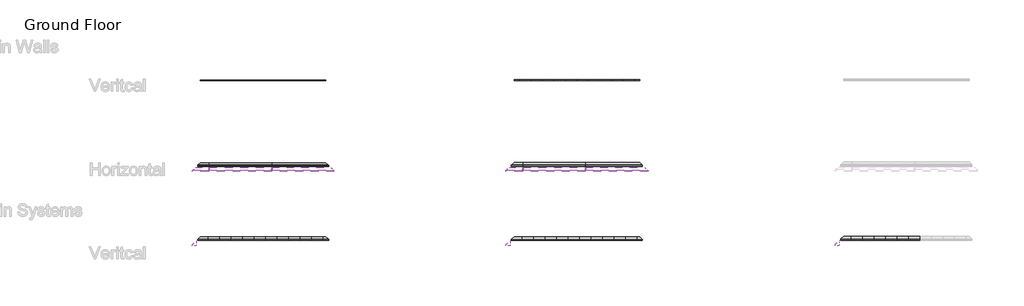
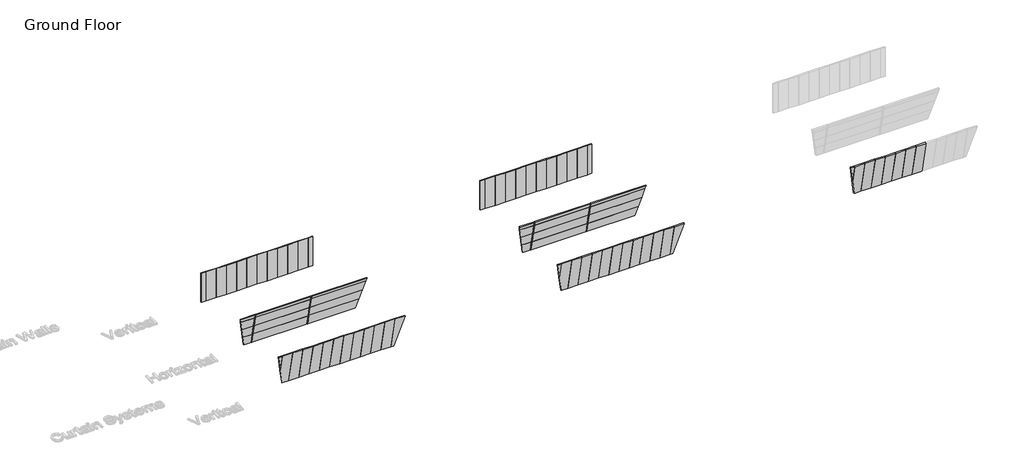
# One storey, part 1 of 9: 82 plates, 16 members.
"""IFC4 building model written with IfcOpenShell, lengths in millimetres."""

from ifc_helpers import new_model, si_unit, origin, place, context, project, spatial, transform, mapped, element, save
from components import rectangular_mullion_pi_mullion_20gap_50depth_70width_81056362, rectangular_mullion_pi_mullion_20gap_50depth_70width_d86b8fff, system_panel_2589ff73, system_panel_b51e4787, system_panel_1549973f, system_panel_0e52adfc, system_panel_b5687b8b, system_panel_abe27e6f, system_panel_d5a0d648, system_panel_6c35d96b, system_panel_ded49ce0, system_panel_219c2210, system_panel_4048a440, system_panel_23496e82, system_panel_d2bda2eb, system_panel_ad9feff3, system_panel_d0f74044, system_panel_ee7158d6, system_panel_cab4ce0a, system_panel_4289257d, system_panel_7543d43a, system_panel_e06f3d7a, system_panel_97bfa6f5, system_panel_f83dd443, system_panel_cb7dd1a5, system_panel_356e011e, system_panel_7fdc04a2, system_panel_d869a469, system_panel_358c47b2, system_panel_98d8c84a, system_panel_9d3fa14c, system_panel_9b4c1542, system_panel_7324f93b, system_panel_dae39a37, system_panel_6d159058, system_panel_6aaf0e04, system_panel_21b04525

model = new_model("IFC4")

# Units and contexts
model_context = context("Model", 3, world=origin())
ifc_project = project(units=[si_unit("LENGTHUNIT", "METRE", prefix="MILLI")], contexts=[model_context])

# Site, building, storey
site = spatial("IfcSite", under=ifc_project)
building = spatial("IfcBuilding", under=site)
storey = spatial("IfcBuildingStorey", under=building, Name="Ground Floor", Elevation=0.0)

# Members
placement = place(None, origin())
rectangular_mullion_pi_mullion_20gap_50depth_70width_shape = rectangular_mullion_pi_mullion_20gap_50depth_70width_81056362(model_context)
element("IfcMember", 1, ObjectType="Rectangular Mullion : PI-Mullion - 20Gap-50Depth-70Width", at=placement, inside=storey, context=model_context, shape_type="MappedRepresentation", body=[
    mapped(rectangular_mullion_pi_mullion_20gap_50depth_70width_shape, transform((-44187.533429, -11836.337246, 3600.0), x_axis=(-1.0, 0.0, 0.0), y_axis=(0.0, -0.9782687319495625, -0.2073409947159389), z_axis=(0.0, -0.2073409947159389, 0.9782687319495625))),
])
element("IfcMember", 2, ObjectType="Rectangular Mullion : PI-Mullion - 20Gap-50Depth-70Width", at=placement, inside=storey, context=model_context, shape_type="MappedRepresentation", body=[
    mapped(rectangular_mullion_pi_mullion_20gap_50depth_70width_shape, transform((-50187.533429, -11836.337246, 3600.0), x_axis=(-1.0, 0.0, 0.0), y_axis=(0.0, -0.9782687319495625, -0.2073409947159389), z_axis=(0.0, -0.2073409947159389, 0.9782687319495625))),
])
element("IfcMember", 3, ObjectType="Rectangular Mullion : PI-Mullion - 20Gap-50Depth-70Width", at=placement, inside=storey, context=model_context, shape_type="MappedRepresentation", body=[
    mapped(rectangular_mullion_pi_mullion_20gap_50depth_70width_shape, transform((-14187.533429, -11836.337246, 3600.0), x_axis=(-1.0, 0.0, 0.0), y_axis=(0.0, -0.9782687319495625, -0.2073409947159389), z_axis=(0.0, -0.2073409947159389, 0.9782687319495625))),
])
element("IfcMember", 4, ObjectType="Rectangular Mullion : PI-Mullion - 20Gap-50Depth-70Width", at=placement, inside=storey, context=model_context, shape_type="MappedRepresentation", body=[
    mapped(rectangular_mullion_pi_mullion_20gap_50depth_70width_shape, transform((-20187.533429, -11836.337246, 3600.0), x_axis=(-1.0, 0.0, 0.0), y_axis=(0.0, -0.9782687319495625, -0.2073409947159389), z_axis=(0.0, -0.2073409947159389, 0.9782687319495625))),
])
rectangular_mullion_pi_mullion_20gap_50depth_70width_2_shape = rectangular_mullion_pi_mullion_20gap_50depth_70width_d86b8fff(model_context)
element("IfcMember", 5, ObjectType="Rectangular Mullion : PI-Mullion - 20Gap-50Depth-70Width", at=placement, inside=storey, context=model_context, shape_type="MappedRepresentation", body=[
    mapped(rectangular_mullion_pi_mullion_20gap_50depth_70width_2_shape, transform((-44187.533429, -11301.403612, 1076.0956051), x_axis=(-1.0, 0.0, 0.0), y_axis=(0.0, -0.9782687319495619, -0.20734099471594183), z_axis=(0.0, -0.20734099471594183, 0.9782687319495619))),
])
element("IfcMember", 6, ObjectType="Rectangular Mullion : PI-Mullion - 20Gap-50Depth-70Width", at=placement, inside=storey, context=model_context, shape_type="MappedRepresentation", body=[
    mapped(rectangular_mullion_pi_mullion_20gap_50depth_70width_2_shape, transform((-50187.533429, -11301.403612, 1076.0956051), x_axis=(-1.0, 0.0, 0.0), y_axis=(0.0, -0.9782687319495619, -0.20734099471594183), z_axis=(0.0, -0.20734099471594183, 0.9782687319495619))),
])
element("IfcMember", 7, ObjectType="Rectangular Mullion : PI-Mullion - 20Gap-50Depth-70Width", at=placement, inside=storey, context=model_context, shape_type="MappedRepresentation", body=[
    mapped(rectangular_mullion_pi_mullion_20gap_50depth_70width_2_shape, transform((-14187.533429, -11301.403612, 1076.0956051), x_axis=(-1.0, 0.0, 0.0), y_axis=(0.0, -0.9782687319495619, -0.20734099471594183), z_axis=(0.0, -0.20734099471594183, 0.9782687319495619))),
])
element("IfcMember", 8, ObjectType="Rectangular Mullion : PI-Mullion - 20Gap-50Depth-70Width", at=placement, inside=storey, context=model_context, shape_type="MappedRepresentation", body=[
    mapped(rectangular_mullion_pi_mullion_20gap_50depth_70width_2_shape, transform((-20187.533429, -11301.403612, 1076.0956051), x_axis=(-1.0, 0.0, 0.0), y_axis=(0.0, -0.9782687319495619, -0.20734099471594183), z_axis=(0.0, -0.20734099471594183, 0.9782687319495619))),
])
element("IfcMember", 9, ObjectType="Rectangular Mullion : PI-Mullion - 20Gap-50Depth-70Width", at=placement, inside=storey, context=model_context, shape_type="MappedRepresentation", body=[
    mapped(rectangular_mullion_pi_mullion_20gap_50depth_70width_2_shape, transform((-44187.533429, -11529.4787062, 2152.1912103), x_axis=(-1.0, 0.0, 0.0), y_axis=(0.0, -0.9782687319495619, -0.2073409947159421), z_axis=(0.0, -0.20734099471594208, 0.9782687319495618))),
])
element("IfcMember", 10, ObjectType="Rectangular Mullion : PI-Mullion - 20Gap-50Depth-70Width", at=placement, inside=storey, context=model_context, shape_type="MappedRepresentation", body=[
    mapped(rectangular_mullion_pi_mullion_20gap_50depth_70width_2_shape, transform((-50187.533429, -11529.4787062, 2152.1912103), x_axis=(-1.0, 0.0, 0.0), y_axis=(0.0, -0.9782687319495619, -0.2073409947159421), z_axis=(0.0, -0.20734099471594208, 0.9782687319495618))),
])
element("IfcMember", 11, ObjectType="Rectangular Mullion : PI-Mullion - 20Gap-50Depth-70Width", at=placement, inside=storey, context=model_context, shape_type="MappedRepresentation", body=[
    mapped(rectangular_mullion_pi_mullion_20gap_50depth_70width_2_shape, transform((-44187.533429, -11757.5538004, 3228.2868154), x_axis=(-1.0, 0.0, 0.0), y_axis=(0.0, -0.978268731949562, -0.20734099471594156), z_axis=(0.0, -0.20734099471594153, 0.9782687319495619))),
])
element("IfcMember", 12, ObjectType="Rectangular Mullion : PI-Mullion - 20Gap-50Depth-70Width", at=placement, inside=storey, context=model_context, shape_type="MappedRepresentation", body=[
    mapped(rectangular_mullion_pi_mullion_20gap_50depth_70width_2_shape, transform((-50187.533429, -11757.5538004, 3228.2868154), x_axis=(-1.0, 0.0, 0.0), y_axis=(0.0, -0.978268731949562, -0.20734099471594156), z_axis=(0.0, -0.20734099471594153, 0.9782687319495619))),
])
element("IfcMember", 13, ObjectType="Rectangular Mullion : PI-Mullion - 20Gap-50Depth-70Width", at=placement, inside=storey, context=model_context, shape_type="MappedRepresentation", body=[
    mapped(rectangular_mullion_pi_mullion_20gap_50depth_70width_2_shape, transform((-14187.533429, -11529.4787062, 2152.1912103), x_axis=(-1.0, 0.0, 0.0), y_axis=(0.0, -0.9782687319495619, -0.2073409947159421), z_axis=(0.0, -0.20734099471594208, 0.9782687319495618))),
])
element("IfcMember", 14, ObjectType="Rectangular Mullion : PI-Mullion - 20Gap-50Depth-70Width", at=placement, inside=storey, context=model_context, shape_type="MappedRepresentation", body=[
    mapped(rectangular_mullion_pi_mullion_20gap_50depth_70width_2_shape, transform((-20187.533429, -11529.4787062, 2152.1912103), x_axis=(-1.0, 0.0, 0.0), y_axis=(0.0, -0.9782687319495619, -0.2073409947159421), z_axis=(0.0, -0.20734099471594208, 0.9782687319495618))),
])
element("IfcMember", 15, ObjectType="Rectangular Mullion : PI-Mullion - 20Gap-50Depth-70Width", at=placement, inside=storey, context=model_context, shape_type="MappedRepresentation", body=[
    mapped(rectangular_mullion_pi_mullion_20gap_50depth_70width_2_shape, transform((-14187.533429, -11757.5538004, 3228.2868154), x_axis=(-1.0, 0.0, 0.0), y_axis=(0.0, -0.978268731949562, -0.20734099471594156), z_axis=(0.0, -0.20734099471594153, 0.9782687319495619))),
])
element("IfcMember", 16, ObjectType="Rectangular Mullion : PI-Mullion - 20Gap-50Depth-70Width", at=placement, inside=storey, context=model_context, shape_type="MappedRepresentation", body=[
    mapped(rectangular_mullion_pi_mullion_20gap_50depth_70width_2_shape, transform((-20187.533429, -11757.5538004, 3228.2868154), x_axis=(-1.0, 0.0, 0.0), y_axis=(0.0, -0.978268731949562, -0.20734099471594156), z_axis=(0.0, -0.20734099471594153, 0.9782687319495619))),
])

# Plates
system_panel_shape = system_panel_2589ff73(model_context)
element("IfcPlate", 17, ObjectType="System Panel : MetecnoPanel 75mm Vertical - Plain Astro - PIR", at=placement, inside=storey, context=model_context, shape_type="MappedRepresentation", body=[
    mapped(system_panel_shape, transform((-38747.533429, -18173.3285178, 0.0), x_axis=(-1.0, 0.0, 0.0), y_axis=(0.0, -0.978268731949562, -0.20734099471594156), z_axis=(0.0, -0.20734099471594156, 0.978268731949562))),
])
system_panel_2_shape = system_panel_b51e4787(model_context)
element("IfcPlate", 18, ObjectType="System Panel : MetecnoPanel 75mm Vertical - Plain Astro - PIR", at=placement, inside=storey, context=model_context, shape_type="MappedRepresentation", body=[
    mapped(system_panel_2_shape, transform((-39847.533429, -18173.3285178, 0.0), x_axis=(-1.0, 0.0, 0.0), y_axis=(0.0, -0.978268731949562, -0.20734099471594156), z_axis=(0.0, -0.20734099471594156, 0.978268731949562))),
])
element("IfcPlate", 19, ObjectType="System Panel : MetecnoPanel 75mm Vertical - Plain Astro - PIR", at=placement, inside=storey, context=model_context, shape_type="MappedRepresentation", body=[
    mapped(system_panel_2_shape, transform((-40947.533429, -18173.3285178, 0.0), x_axis=(-1.0, 0.0, 0.0), y_axis=(0.0, -0.978268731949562, -0.20734099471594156), z_axis=(0.0, -0.20734099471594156, 0.978268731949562))),
])
element("IfcPlate", 20, ObjectType="System Panel : MetecnoPanel 75mm Vertical - Plain Astro - PIR", at=placement, inside=storey, context=model_context, shape_type="MappedRepresentation", body=[
    mapped(system_panel_2_shape, transform((-42047.533429, -18173.3285178, 0.0), x_axis=(-1.0, 0.0, 0.0), y_axis=(0.0, -0.978268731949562, -0.20734099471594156), z_axis=(0.0, -0.20734099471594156, 0.978268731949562))),
])
element("IfcPlate", 21, ObjectType="System Panel : MetecnoPanel 75mm Vertical - Plain Astro - PIR", at=placement, inside=storey, context=model_context, shape_type="MappedRepresentation", body=[
    mapped(system_panel_2_shape, transform((-43147.533429, -18173.3285178, 0.0), x_axis=(-1.0, 0.0, 0.0), y_axis=(0.0, -0.978268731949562, -0.20734099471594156), z_axis=(0.0, -0.20734099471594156, 0.978268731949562))),
])
element("IfcPlate", 22, ObjectType="System Panel : MetecnoPanel 75mm Vertical - Plain Astro - PIR", at=placement, inside=storey, context=model_context, shape_type="MappedRepresentation", body=[
    mapped(system_panel_2_shape, transform((-44247.533429, -18173.3285178, 0.0), x_axis=(-1.0, 0.0, 0.0), y_axis=(0.0, -0.978268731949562, -0.20734099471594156), z_axis=(0.0, -0.20734099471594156, 0.978268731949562))),
])
element("IfcPlate", 23, ObjectType="System Panel : MetecnoPanel 75mm Vertical - Plain Astro - PIR", at=placement, inside=storey, context=model_context, shape_type="MappedRepresentation", body=[
    mapped(system_panel_2_shape, transform((-45347.533429, -18173.3285178, 0.0), x_axis=(-1.0, 0.0, 0.0), y_axis=(0.0, -0.978268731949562, -0.20734099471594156), z_axis=(0.0, -0.20734099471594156, 0.978268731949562))),
])
element("IfcPlate", 24, ObjectType="System Panel : MetecnoPanel 75mm Vertical - Plain Astro - PIR", at=placement, inside=storey, context=model_context, shape_type="MappedRepresentation", body=[
    mapped(system_panel_2_shape, transform((-46447.533429, -18173.3285178, 0.0), x_axis=(-1.0, 0.0, 0.0), y_axis=(0.0, -0.978268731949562, -0.20734099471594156), z_axis=(0.0, -0.20734099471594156, 0.978268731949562))),
])
element("IfcPlate", 25, ObjectType="System Panel : MetecnoPanel 75mm Vertical - Plain Astro - PIR", at=placement, inside=storey, context=model_context, shape_type="MappedRepresentation", body=[
    mapped(system_panel_2_shape, transform((-47547.533429, -18173.3285178, 0.0), x_axis=(-1.0, 0.0, 0.0), y_axis=(0.0, -0.978268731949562, -0.20734099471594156), z_axis=(0.0, -0.20734099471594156, 0.978268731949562))),
])
element("IfcPlate", 26, ObjectType="System Panel : MetecnoPanel 75mm Vertical - Plain Astro - PIR", at=placement, inside=storey, context=model_context, shape_type="MappedRepresentation", body=[
    mapped(system_panel_2_shape, transform((-48647.533429, -18173.3285178, 0.0), x_axis=(-1.0, 0.0, 0.0), y_axis=(0.0, -0.978268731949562, -0.20734099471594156), z_axis=(0.0, -0.20734099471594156, 0.978268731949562))),
])
element("IfcPlate", 27, ObjectType="System Panel : MetecnoPanel 75mm Vertical - Plain Astro - PIR", at=placement, inside=storey, context=model_context, shape_type="MappedRepresentation", body=[
    mapped(system_panel_2_shape, transform((-49747.533429, -18173.3285178, 0.0), x_axis=(-1.0, 0.0, 0.0), y_axis=(0.0, -0.978268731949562, -0.20734099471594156), z_axis=(0.0, -0.20734099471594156, 0.978268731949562))),
])
system_panel_3_shape = system_panel_1549973f(model_context)
element("IfcPlate", 28, ObjectType="System Panel : MetecnoPanel 75mm Vertical - Plain Astro - PIR", at=placement, inside=storey, context=model_context, shape_type="MappedRepresentation", body=[
    mapped(system_panel_3_shape, transform((-50847.533429, -18173.3285178, 0.0), x_axis=(-1.0, 0.0, 0.0), y_axis=(0.0, -0.978268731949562, -0.20734099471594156), z_axis=(0.0, -0.20734099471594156, 0.978268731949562))),
])
system_panel_4_shape = system_panel_0e52adfc(model_context)
element("IfcPlate", 29, ObjectType="System Panel : MetecnoPanel 75mm Vertical - Plain Astro - PIR", at=placement, inside=storey, context=model_context, shape_type="MappedRepresentation", body=[
    mapped(system_panel_4_shape, transform((-51597.533429, -18554.8328819, 1800.0), x_axis=(-1.0, 0.0, 0.0), y_axis=(0.0, -0.978268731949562, -0.20734099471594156), z_axis=(0.0, -0.20734099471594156, 0.978268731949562))),
])
system_panel_5_shape = system_panel_b5687b8b(model_context)
element("IfcPlate", 30, ObjectType="System Panel : MetecnoPanel 75mm Horizontal - Plain Astro - PIR", at=placement, inside=storey, context=model_context, shape_type="MappedRepresentation", body=[
    mapped(system_panel_5_shape, transform((-47187.533429, -11073.3285178, 0.0), x_axis=(-1.0, 0.0, 0.0), y_axis=(0.0, -0.978268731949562, -0.20734099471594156), z_axis=(0.0, -0.20734099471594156, 0.978268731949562))),
])
element("IfcPlate", 31, ObjectType="System Panel : MetecnoPanel 75mm Horizontal - Plain Astro - PIR", at=placement, inside=storey, context=model_context, shape_type="MappedRepresentation", body=[
    mapped(system_panel_5_shape, transform((-47187.533429, -11301.403612, 1076.0956051), x_axis=(-1.0, 0.0, 0.0), y_axis=(0.0, -0.978268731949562, -0.20734099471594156), z_axis=(0.0, -0.20734099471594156, 0.978268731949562))),
])
element("IfcPlate", 32, ObjectType="System Panel : MetecnoPanel 75mm Horizontal - Plain Astro - PIR", at=placement, inside=storey, context=model_context, shape_type="MappedRepresentation", body=[
    mapped(system_panel_5_shape, transform((-47187.533429, -11529.4787062, 2152.1912103), x_axis=(-1.0, 0.0, 0.0), y_axis=(0.0, -0.978268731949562, -0.20734099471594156), z_axis=(0.0, -0.20734099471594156, 0.978268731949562))),
])
system_panel_6_shape = system_panel_abe27e6f(model_context)
element("IfcPlate", 33, ObjectType="System Panel : MetecnoPanel 75mm Horizontal - Plain Astro - PIR", at=placement, inside=storey, context=model_context, shape_type="MappedRepresentation", body=[
    mapped(system_panel_6_shape, transform((-47187.533429, -11757.5538004, 3228.2868154), x_axis=(-1.0, 0.0, 0.0), y_axis=(0.0, -0.978268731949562, -0.20734099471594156), z_axis=(0.0, -0.20734099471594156, 0.978268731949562))),
])
system_panel_7_shape = system_panel_d5a0d648(model_context)
element("IfcPlate", 34, ObjectType="System Panel : MetecnoPanel 100mm Horizontal - Plain Astro - PIR", at=placement, inside=storey, context=model_context, shape_type="MappedRepresentation", body=[
    mapped(system_panel_7_shape, transform((-11467.9672506, -11073.3285178, 0.0), x_axis=(-1.0, 0.0, 0.0), y_axis=(0.0, -0.978268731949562, -0.20734099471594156), z_axis=(0.0, -0.20734099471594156, 0.978268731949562))),
])
system_panel_8_shape = system_panel_6c35d96b(model_context)
element("IfcPlate", 35, ObjectType="System Panel : MetecnoPanel 100mm Horizontal - Plain Astro - PIR", at=placement, inside=storey, context=model_context, shape_type="MappedRepresentation", body=[
    mapped(system_panel_8_shape, transform((-17187.533429, -11073.3285178, 0.0), x_axis=(-1.0, 0.0, 0.0), y_axis=(0.0, -0.978268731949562, -0.20734099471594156), z_axis=(0.0, -0.20734099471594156, 0.978268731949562))),
])
element("IfcPlate", 36, ObjectType="System Panel : MetecnoPanel 100mm Horizontal - Plain Astro - PIR", at=placement, inside=storey, context=model_context, shape_type="MappedRepresentation", body=[
    mapped(system_panel_8_shape, transform((-17187.533429, -11301.403612, 1076.0956051), x_axis=(-1.0, 0.0, 0.0), y_axis=(0.0, -0.978268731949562, -0.20734099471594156), z_axis=(0.0, -0.20734099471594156, 0.978268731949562))),
])
element("IfcPlate", 37, ObjectType="System Panel : MetecnoPanel 100mm Horizontal - Plain Astro - PIR", at=placement, inside=storey, context=model_context, shape_type="MappedRepresentation", body=[
    mapped(system_panel_8_shape, transform((-17187.533429, -11529.4787062, 2152.1912103), x_axis=(-1.0, 0.0, 0.0), y_axis=(0.0, -0.978268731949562, -0.20734099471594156), z_axis=(0.0, -0.20734099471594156, 0.978268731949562))),
])
system_panel_9_shape = system_panel_ded49ce0(model_context)
element("IfcPlate", 38, ObjectType="System Panel : MetecnoPanel 100mm Horizontal - Plain Astro - PIR", at=placement, inside=storey, context=model_context, shape_type="MappedRepresentation", body=[
    mapped(system_panel_9_shape, transform((-20717.0996073, -11073.3285178, 0.0), x_axis=(-1.0, 0.0, 0.0), y_axis=(0.0, -0.978268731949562, -0.20734099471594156), z_axis=(0.0, -0.20734099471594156, 0.978268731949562))),
])
system_panel_10_shape = system_panel_219c2210(model_context)
element("IfcPlate", 39, ObjectType="System Panel : MetecnoPanel 100mm Horizontal - Plain Astro - PIR", at=placement, inside=storey, context=model_context, shape_type="MappedRepresentation", body=[
    mapped(system_panel_10_shape, transform((-11348.4010723, -11301.403612, 1076.0956051), x_axis=(-1.0, 0.0, 0.0), y_axis=(0.0, -0.978268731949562, -0.20734099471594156), z_axis=(0.0, -0.20734099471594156, 0.978268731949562))),
])
system_panel_11_shape = system_panel_4048a440(model_context)
element("IfcPlate", 40, ObjectType="System Panel : MetecnoPanel 100mm Horizontal - Plain Astro - PIR", at=placement, inside=storey, context=model_context, shape_type="MappedRepresentation", body=[
    mapped(system_panel_11_shape, transform((-20836.6657856, -11301.403612, 1076.0956051), x_axis=(-1.0, 0.0, 0.0), y_axis=(0.0, -0.978268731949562, -0.20734099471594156), z_axis=(0.0, -0.20734099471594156, 0.978268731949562))),
])
system_panel_12_shape = system_panel_23496e82(model_context)
element("IfcPlate", 41, ObjectType="System Panel : MetecnoPanel 100mm Horizontal - Plain Astro - PIR", at=placement, inside=storey, context=model_context, shape_type="MappedRepresentation", body=[
    mapped(system_panel_12_shape, transform((-11228.8348939, -11529.4787062, 2152.1912103), x_axis=(-1.0, 0.0, 0.0), y_axis=(0.0, -0.978268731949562, -0.20734099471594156), z_axis=(0.0, -0.20734099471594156, 0.978268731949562))),
])
system_panel_13_shape = system_panel_d2bda2eb(model_context)
element("IfcPlate", 42, ObjectType="System Panel : MetecnoPanel 100mm Horizontal - Plain Astro - PIR", at=placement, inside=storey, context=model_context, shape_type="MappedRepresentation", body=[
    mapped(system_panel_13_shape, transform((-20956.231964, -11529.4787062, 2152.1912103), x_axis=(-1.0, 0.0, 0.0), y_axis=(0.0, -0.978268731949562, -0.20734099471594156), z_axis=(0.0, -0.20734099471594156, 0.978268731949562))),
])
system_panel_14_shape = system_panel_ad9feff3(model_context)
element("IfcPlate", 43, ObjectType="System Panel : MetecnoPanel 100mm Horizontal - Plain Astro - PIR", at=placement, inside=storey, context=model_context, shape_type="MappedRepresentation", body=[
    mapped(system_panel_14_shape, transform((-11187.533429, -11757.5538004, 3228.2868154), x_axis=(-1.0, 0.0, 0.0), y_axis=(0.0, -0.978268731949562, -0.20734099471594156), z_axis=(0.0, -0.20734099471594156, 0.978268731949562))),
])
system_panel_15_shape = system_panel_d0f74044(model_context)
element("IfcPlate", 44, ObjectType="System Panel : MetecnoPanel 100mm Horizontal - Plain Astro - PIR", at=placement, inside=storey, context=model_context, shape_type="MappedRepresentation", body=[
    mapped(system_panel_15_shape, transform((-17187.533429, -11757.5538004, 3228.2868154), x_axis=(-1.0, 0.0, 0.0), y_axis=(0.0, -0.978268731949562, -0.20734099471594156), z_axis=(0.0, -0.20734099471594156, 0.978268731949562))),
])
system_panel_16_shape = system_panel_ee7158d6(model_context)
element("IfcPlate", 45, ObjectType="System Panel : MetecnoPanel 100mm Horizontal - Plain Astro - PIR", at=placement, inside=storey, context=model_context, shape_type="MappedRepresentation", body=[
    mapped(system_panel_16_shape, transform((-20997.533429, -11757.5538004, 3228.2868154), x_axis=(-1.0, 0.0, 0.0), y_axis=(0.0, -0.978268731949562, -0.20734099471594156), z_axis=(0.0, -0.20734099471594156, 0.978268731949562))),
])
system_panel_17_shape = system_panel_cab4ce0a(model_context)
element("IfcPlate", 46, ObjectType="System Panel : MetecnoPanel 100mm Vertical - Plain Astro - PIR", at=placement, inside=storey, context=model_context, shape_type="MappedRepresentation", body=[
    mapped(system_panel_17_shape, transform((-8747.533429, -18173.3285178, 0.0), x_axis=(-1.0, 0.0, 0.0), y_axis=(0.0, -0.978268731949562, -0.20734099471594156), z_axis=(0.0, -0.20734099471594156, 0.978268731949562))),
])
system_panel_18_shape = system_panel_4289257d(model_context)
element("IfcPlate", 47, ObjectType="System Panel : MetecnoPanel 100mm Vertical - Plain Astro - PIR", at=placement, inside=storey, context=model_context, shape_type="MappedRepresentation", body=[
    mapped(system_panel_18_shape, transform((-9847.533429, -18173.3285178, 0.0), x_axis=(-1.0, 0.0, 0.0), y_axis=(0.0, -0.978268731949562, -0.20734099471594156), z_axis=(0.0, -0.20734099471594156, 0.978268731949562))),
])
element("IfcPlate", 48, ObjectType="System Panel : MetecnoPanel 100mm Vertical - Plain Astro - PIR", at=placement, inside=storey, context=model_context, shape_type="MappedRepresentation", body=[
    mapped(system_panel_18_shape, transform((-10947.533429, -18173.3285178, 0.0), x_axis=(-1.0, 0.0, 0.0), y_axis=(0.0, -0.978268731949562, -0.20734099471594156), z_axis=(0.0, -0.20734099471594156, 0.978268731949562))),
])
element("IfcPlate", 49, ObjectType="System Panel : MetecnoPanel 100mm Vertical - Plain Astro - PIR", at=placement, inside=storey, context=model_context, shape_type="MappedRepresentation", body=[
    mapped(system_panel_18_shape, transform((-12047.533429, -18173.3285178, 0.0), x_axis=(-1.0, 0.0, 0.0), y_axis=(0.0, -0.978268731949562, -0.20734099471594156), z_axis=(0.0, -0.20734099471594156, 0.978268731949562))),
])
element("IfcPlate", 50, ObjectType="System Panel : MetecnoPanel 100mm Vertical - Plain Astro - PIR", at=placement, inside=storey, context=model_context, shape_type="MappedRepresentation", body=[
    mapped(system_panel_18_shape, transform((-13147.533429, -18173.3285178, 0.0), x_axis=(-1.0, 0.0, 0.0), y_axis=(0.0, -0.978268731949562, -0.20734099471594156), z_axis=(0.0, -0.20734099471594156, 0.978268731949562))),
])
element("IfcPlate", 51, ObjectType="System Panel : MetecnoPanel 100mm Vertical - Plain Astro - PIR", at=placement, inside=storey, context=model_context, shape_type="MappedRepresentation", body=[
    mapped(system_panel_18_shape, transform((-14247.533429, -18173.3285178, 0.0), x_axis=(-1.0, 0.0, 0.0), y_axis=(0.0, -0.978268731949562, -0.20734099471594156), z_axis=(0.0, -0.20734099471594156, 0.978268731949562))),
])
element("IfcPlate", 52, ObjectType="System Panel : MetecnoPanel 100mm Vertical - Plain Astro - PIR", at=placement, inside=storey, context=model_context, shape_type="MappedRepresentation", body=[
    mapped(system_panel_18_shape, transform((-15347.533429, -18173.3285178, 0.0), x_axis=(-1.0, 0.0, 0.0), y_axis=(0.0, -0.978268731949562, -0.20734099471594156), z_axis=(0.0, -0.20734099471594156, 0.978268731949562))),
])
element("IfcPlate", 53, ObjectType="System Panel : MetecnoPanel 100mm Vertical - Plain Astro - PIR", at=placement, inside=storey, context=model_context, shape_type="MappedRepresentation", body=[
    mapped(system_panel_18_shape, transform((-16447.533429, -18173.3285178, 0.0), x_axis=(-1.0, 0.0, 0.0), y_axis=(0.0, -0.978268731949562, -0.20734099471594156), z_axis=(0.0, -0.20734099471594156, 0.978268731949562))),
])
element("IfcPlate", 54, ObjectType="System Panel : MetecnoPanel 100mm Vertical - Plain Astro - PIR", at=placement, inside=storey, context=model_context, shape_type="MappedRepresentation", body=[
    mapped(system_panel_18_shape, transform((-17547.533429, -18173.3285178, 0.0), x_axis=(-1.0, 0.0, 0.0), y_axis=(0.0, -0.978268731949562, -0.20734099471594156), z_axis=(0.0, -0.20734099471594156, 0.978268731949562))),
])
element("IfcPlate", 55, ObjectType="System Panel : MetecnoPanel 100mm Vertical - Plain Astro - PIR", at=placement, inside=storey, context=model_context, shape_type="MappedRepresentation", body=[
    mapped(system_panel_18_shape, transform((-18647.533429, -18173.3285178, 0.0), x_axis=(-1.0, 0.0, 0.0), y_axis=(0.0, -0.978268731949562, -0.20734099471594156), z_axis=(0.0, -0.20734099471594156, 0.978268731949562))),
])
element("IfcPlate", 56, ObjectType="System Panel : MetecnoPanel 100mm Vertical - Plain Astro - PIR", at=placement, inside=storey, context=model_context, shape_type="MappedRepresentation", body=[
    mapped(system_panel_18_shape, transform((-19747.533429, -18173.3285178, 0.0), x_axis=(-1.0, 0.0, 0.0), y_axis=(0.0, -0.978268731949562, -0.20734099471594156), z_axis=(0.0, -0.20734099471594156, 0.978268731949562))),
])
system_panel_19_shape = system_panel_7543d43a(model_context)
element("IfcPlate", 57, ObjectType="System Panel : MetecnoPanel 100mm Vertical - Plain Astro - PIR", at=placement, inside=storey, context=model_context, shape_type="MappedRepresentation", body=[
    mapped(system_panel_19_shape, transform((-20847.533429, -18173.3285178, 0.0), x_axis=(-1.0, 0.0, 0.0), y_axis=(0.0, -0.978268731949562, -0.20734099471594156), z_axis=(0.0, -0.20734099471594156, 0.978268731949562))),
])
system_panel_20_shape = system_panel_e06f3d7a(model_context)
element("IfcPlate", 58, ObjectType="System Panel : MetecnoPanel 100mm Vertical - Plain Astro - PIR", at=placement, inside=storey, context=model_context, shape_type="MappedRepresentation", body=[
    mapped(system_panel_20_shape, transform((-21597.533429, -18554.8328819, 1800.0), x_axis=(-1.0, 0.0, 0.0), y_axis=(0.0, -0.978268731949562, -0.20734099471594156), z_axis=(0.0, -0.20734099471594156, 0.978268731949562))),
])
system_panel_21_shape = system_panel_97bfa6f5(model_context)
element("IfcPlate", 59, ObjectType="System Panel : MetecnoPanel 150mm Vertical - Plain Astro - PIR", at=placement, inside=storey, context=model_context, shape_type="MappedRepresentation", body=[
    mapped(system_panel_21_shape, transform((17252.466571, -18173.3285178, 0.0), x_axis=(-1.0, 0.0, 0.0), y_axis=(0.0, -0.978268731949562, -0.20734099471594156), z_axis=(0.0, -0.20734099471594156, 0.978268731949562))),
])
element("IfcPlate", 60, ObjectType="System Panel : MetecnoPanel 150mm Vertical - Plain Astro - PIR", at=placement, inside=storey, context=model_context, shape_type="MappedRepresentation", body=[
    mapped(system_panel_21_shape, transform((16152.466571, -18173.3285178, 0.0), x_axis=(-1.0, 0.0, 0.0), y_axis=(0.0, -0.978268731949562, -0.20734099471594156), z_axis=(0.0, -0.20734099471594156, 0.978268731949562))),
])
element("IfcPlate", 61, ObjectType="System Panel : MetecnoPanel 150mm Vertical - Plain Astro - PIR", at=placement, inside=storey, context=model_context, shape_type="MappedRepresentation", body=[
    mapped(system_panel_21_shape, transform((15052.466571, -18173.3285178, 0.0), x_axis=(-1.0, 0.0, 0.0), y_axis=(0.0, -0.978268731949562, -0.20734099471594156), z_axis=(0.0, -0.20734099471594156, 0.978268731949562))),
])
element("IfcPlate", 62, ObjectType="System Panel : MetecnoPanel 150mm Vertical - Plain Astro - PIR", at=placement, inside=storey, context=model_context, shape_type="MappedRepresentation", body=[
    mapped(system_panel_21_shape, transform((13952.466571, -18173.3285178, 0.0), x_axis=(-1.0, 0.0, 0.0), y_axis=(0.0, -0.978268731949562, -0.20734099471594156), z_axis=(0.0, -0.20734099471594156, 0.978268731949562))),
])
element("IfcPlate", 63, ObjectType="System Panel : MetecnoPanel 150mm Vertical - Plain Astro - PIR", at=placement, inside=storey, context=model_context, shape_type="MappedRepresentation", body=[
    mapped(system_panel_21_shape, transform((12852.466571, -18173.3285178, 0.0), x_axis=(-1.0, 0.0, 0.0), y_axis=(0.0, -0.978268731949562, -0.20734099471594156), z_axis=(0.0, -0.20734099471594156, 0.978268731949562))),
])
element("IfcPlate", 64, ObjectType="System Panel : MetecnoPanel 150mm Vertical - Plain Astro - PIR", at=placement, inside=storey, context=model_context, shape_type="MappedRepresentation", body=[
    mapped(system_panel_21_shape, transform((11752.466571, -18173.3285178, 0.0), x_axis=(-1.0, 0.0, 0.0), y_axis=(0.0, -0.978268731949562, -0.20734099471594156), z_axis=(0.0, -0.20734099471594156, 0.978268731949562))),
])
system_panel_22_shape = system_panel_f83dd443(model_context)
element("IfcPlate", 65, ObjectType="System Panel : MetecnoPanel 150mm Vertical - Plain Astro - PIR", at=placement, inside=storey, context=model_context, shape_type="MappedRepresentation", body=[
    mapped(system_panel_22_shape, transform((10652.466571, -18173.3285178, 0.0), x_axis=(-1.0, 0.0, 0.0), y_axis=(0.0, -0.978268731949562, -0.20734099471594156), z_axis=(0.0, -0.20734099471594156, 0.978268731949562))),
])
system_panel_23_shape = system_panel_cb7dd1a5(model_context)
element("IfcPlate", 66, ObjectType="System Panel : MetecnoPanel 150mm Vertical - Plain Astro - PIR", at=placement, inside=storey, context=model_context, shape_type="MappedRepresentation", body=[
    mapped(system_panel_23_shape, transform((9902.466571, -18554.8328819, 1800.0), x_axis=(-1.0, 0.0, 0.0), y_axis=(0.0, -0.978268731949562, -0.20734099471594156), z_axis=(0.0, -0.20734099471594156, 0.978268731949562))),
])
system_panel_24_shape = system_panel_356e011e(model_context)
element("IfcPlate", 67, ObjectType="System Panel : MetecnoPanel 75mm Horizontal - Plain Astro - PIR", at=placement, inside=storey, context=model_context, shape_type="MappedRepresentation", body=[
    mapped(system_panel_24_shape, transform((-41467.9672506, -11073.3285178, 0.0), x_axis=(-1.0, 0.0, 0.0), y_axis=(0.0, -0.978268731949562, -0.20734099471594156), z_axis=(0.0, -0.20734099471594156, 0.978268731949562))),
])
system_panel_25_shape = system_panel_7fdc04a2(model_context)
element("IfcPlate", 68, ObjectType="System Panel : MetecnoPanel 75mm Horizontal - Plain Astro - PIR", at=placement, inside=storey, context=model_context, shape_type="MappedRepresentation", body=[
    mapped(system_panel_25_shape, transform((-50717.0996073, -11073.3285178, 0.0), x_axis=(-1.0, 0.0, 0.0), y_axis=(0.0, -0.978268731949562, -0.20734099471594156), z_axis=(0.0, -0.20734099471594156, 0.978268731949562))),
])
system_panel_26_shape = system_panel_d869a469(model_context)
element("IfcPlate", 69, ObjectType="System Panel : MetecnoPanel 75mm Horizontal - Plain Astro - PIR", at=placement, inside=storey, context=model_context, shape_type="MappedRepresentation", body=[
    mapped(system_panel_26_shape, transform((-41348.4010723, -11301.403612, 1076.0956051), x_axis=(-1.0, 0.0, 0.0), y_axis=(0.0, -0.978268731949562, -0.20734099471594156), z_axis=(0.0, -0.20734099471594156, 0.978268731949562))),
])
system_panel_27_shape = system_panel_358c47b2(model_context)
element("IfcPlate", 70, ObjectType="System Panel : MetecnoPanel 75mm Horizontal - Plain Astro - PIR", at=placement, inside=storey, context=model_context, shape_type="MappedRepresentation", body=[
    mapped(system_panel_27_shape, transform((-50836.6657856, -11301.403612, 1076.0956051), x_axis=(-1.0, 0.0, 0.0), y_axis=(0.0, -0.978268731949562, -0.20734099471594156), z_axis=(0.0, -0.20734099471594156, 0.978268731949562))),
])
system_panel_28_shape = system_panel_98d8c84a(model_context)
element("IfcPlate", 71, ObjectType="System Panel : MetecnoPanel 75mm Horizontal - Plain Astro - PIR", at=placement, inside=storey, context=model_context, shape_type="MappedRepresentation", body=[
    mapped(system_panel_28_shape, transform((-41228.8348939, -11529.4787062, 2152.1912103), x_axis=(-1.0, 0.0, 0.0), y_axis=(0.0, -0.978268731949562, -0.20734099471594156), z_axis=(0.0, -0.20734099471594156, 0.978268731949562))),
])
system_panel_29_shape = system_panel_9d3fa14c(model_context)
element("IfcPlate", 72, ObjectType="System Panel : MetecnoPanel 75mm Horizontal - Plain Astro - PIR", at=placement, inside=storey, context=model_context, shape_type="MappedRepresentation", body=[
    mapped(system_panel_29_shape, transform((-50956.231964, -11529.4787062, 2152.1912103), x_axis=(-1.0, 0.0, 0.0), y_axis=(0.0, -0.978268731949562, -0.20734099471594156), z_axis=(0.0, -0.20734099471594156, 0.978268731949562))),
])
system_panel_30_shape = system_panel_9b4c1542(model_context)
element("IfcPlate", 73, ObjectType="System Panel : MetecnoPanel 75mm Horizontal - Plain Astro - PIR", at=placement, inside=storey, context=model_context, shape_type="MappedRepresentation", body=[
    mapped(system_panel_30_shape, transform((-41187.533429, -11757.5538004, 3228.2868154), x_axis=(-1.0, 0.0, 0.0), y_axis=(0.0, -0.978268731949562, -0.20734099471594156), z_axis=(0.0, -0.20734099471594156, 0.978268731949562))),
])
system_panel_31_shape = system_panel_7324f93b(model_context)
element("IfcPlate", 74, ObjectType="System Panel : MetecnoPanel 75mm Horizontal - Plain Astro - PIR", at=placement, inside=storey, context=model_context, shape_type="MappedRepresentation", body=[
    mapped(system_panel_31_shape, transform((-50997.533429, -11757.5538004, 3228.2868154), x_axis=(-1.0, 0.0, 0.0), y_axis=(0.0, -0.978268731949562, -0.20734099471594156), z_axis=(0.0, -0.20734099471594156, 0.978268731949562))),
])
system_panel_32_shape = system_panel_dae39a37(model_context)
element("IfcPlate", 75, ObjectType="System Panel : MetecnoPanel 75mm Vertical - Plain Astro - PIR", at=placement, inside=storey, context=model_context, shape_type="MappedRepresentation", body=[
    mapped(system_panel_32_shape, transform((-50747.533429, -3133.3285178, 0.0), x_axis=(1.0, 0.0, 0.0), y_axis=(0.0, 1.0, 0.0), z_axis=(0.0, 0.0, 1.0))),
])
element("IfcPlate", 76, ObjectType="System Panel : MetecnoPanel 75mm Vertical - Plain Astro - PIR", at=placement, inside=storey, context=model_context, shape_type="MappedRepresentation", body=[
    mapped(system_panel_32_shape, transform((-39247.533429, -3133.3285178, 0.0), x_axis=(1.0, 0.0, 0.0), y_axis=(0.0, 1.0, 0.0), z_axis=(0.0, 0.0, 1.0))),
])
system_panel_33_shape = system_panel_6d159058(model_context)
element("IfcPlate", 77, ObjectType="System Panel : MetecnoPanel 75mm Vertical - Plain Astro - PIR", at=placement, inside=storey, context=model_context, shape_type="MappedRepresentation", body=[
    mapped(system_panel_33_shape, transform((-47747.533429, -3133.3285178, 0.0), x_axis=(1.0, 0.0, 0.0), y_axis=(0.0, 1.0, 0.0), z_axis=(0.0, 0.0, 1.0))),
])
element("IfcPlate", 78, ObjectType="System Panel : MetecnoPanel 75mm Vertical - Plain Astro - PIR", at=placement, inside=storey, context=model_context, shape_type="MappedRepresentation", body=[
    mapped(system_panel_33_shape, transform((-46647.533429, -3133.3285178, 0.0), x_axis=(1.0, 0.0, 0.0), y_axis=(0.0, 1.0, 0.0), z_axis=(0.0, 0.0, 1.0))),
])
element("IfcPlate", 79, ObjectType="System Panel : MetecnoPanel 75mm Vertical - Plain Astro - PIR", at=placement, inside=storey, context=model_context, shape_type="MappedRepresentation", body=[
    mapped(system_panel_33_shape, transform((-45547.533429, -3133.3285178, 0.0), x_axis=(1.0, 0.0, 0.0), y_axis=(0.0, 1.0, 0.0), z_axis=(0.0, 0.0, 1.0))),
])
element("IfcPlate", 80, ObjectType="System Panel : MetecnoPanel 75mm Vertical - Plain Astro - PIR", at=placement, inside=storey, context=model_context, shape_type="MappedRepresentation", body=[
    mapped(system_panel_33_shape, transform((-44447.533429, -3133.3285178, 0.0), x_axis=(1.0, 0.0, 0.0), y_axis=(0.0, 1.0, 0.0), z_axis=(0.0, 0.0, 1.0))),
])
element("IfcPlate", 81, ObjectType="System Panel : MetecnoPanel 75mm Vertical - Plain Astro - PIR", at=placement, inside=storey, context=model_context, shape_type="MappedRepresentation", body=[
    mapped(system_panel_33_shape, transform((-43347.533429, -3133.3285178, 0.0), x_axis=(1.0, 0.0, 0.0), y_axis=(0.0, 1.0, 0.0), z_axis=(0.0, 0.0, 1.0))),
])
element("IfcPlate", 82, ObjectType="System Panel : MetecnoPanel 75mm Vertical - Plain Astro - PIR", at=placement, inside=storey, context=model_context, shape_type="MappedRepresentation", body=[
    mapped(system_panel_33_shape, transform((-42247.533429, -3133.3285178, 0.0), x_axis=(1.0, 0.0, 0.0), y_axis=(0.0, 1.0, 0.0), z_axis=(0.0, 0.0, 1.0))),
])
element("IfcPlate", 83, ObjectType="System Panel : MetecnoPanel 75mm Vertical - Plain Astro - PIR", at=placement, inside=storey, context=model_context, shape_type="MappedRepresentation", body=[
    mapped(system_panel_33_shape, transform((-41147.533429, -3133.3285178, 0.0), x_axis=(1.0, 0.0, 0.0), y_axis=(0.0, 1.0, 0.0), z_axis=(0.0, 0.0, 1.0))),
])
element("IfcPlate", 84, ObjectType="System Panel : MetecnoPanel 75mm Vertical - Plain Astro - PIR", at=placement, inside=storey, context=model_context, shape_type="MappedRepresentation", body=[
    mapped(system_panel_33_shape, transform((-40047.533429, -3133.3285178, 0.0), x_axis=(1.0, 0.0, 0.0), y_axis=(0.0, 1.0, 0.0), z_axis=(0.0, 0.0, 1.0))),
])
element("IfcPlate", 85, ObjectType="System Panel : MetecnoPanel 75mm Vertical - Plain Astro - PIR", at=placement, inside=storey, context=model_context, shape_type="MappedRepresentation", body=[
    mapped(system_panel_33_shape, transform((-48847.533429, -3133.3285178, 0.0), x_axis=(1.0, 0.0, 0.0), y_axis=(0.0, 1.0, 0.0), z_axis=(0.0, 0.0, 1.0))),
])
element("IfcPlate", 86, ObjectType="System Panel : MetecnoPanel 75mm Vertical - Plain Astro - PIR", at=placement, inside=storey, context=model_context, shape_type="MappedRepresentation", body=[
    mapped(system_panel_33_shape, transform((-49947.533429, -3133.3285178, 0.0), x_axis=(1.0, 0.0, 0.0), y_axis=(0.0, 1.0, 0.0), z_axis=(0.0, 0.0, 1.0))),
])
system_panel_34_shape = system_panel_6aaf0e04(model_context)
element("IfcPlate", 87, ObjectType="System Panel : MetecnoPanel 100mm Vertical - Plain Astro - PIR", at=placement, inside=storey, context=model_context, shape_type="MappedRepresentation", body=[
    mapped(system_panel_34_shape, transform((-20747.533429, -3133.3285178, 0.0), x_axis=(1.0, 0.0, 0.0), y_axis=(0.0, 1.0, 0.0), z_axis=(0.0, 0.0, 1.0))),
])
element("IfcPlate", 88, ObjectType="System Panel : MetecnoPanel 100mm Vertical - Plain Astro - PIR", at=placement, inside=storey, context=model_context, shape_type="MappedRepresentation", body=[
    mapped(system_panel_34_shape, transform((-9247.533429, -3133.3285178, 0.0), x_axis=(1.0, 0.0, 0.0), y_axis=(0.0, 1.0, 0.0), z_axis=(0.0, 0.0, 1.0))),
])
system_panel_35_shape = system_panel_21b04525(model_context)
element("IfcPlate", 89, ObjectType="System Panel : MetecnoPanel 100mm Vertical - Plain Astro - PIR", at=placement, inside=storey, context=model_context, shape_type="MappedRepresentation", body=[
    mapped(system_panel_35_shape, transform((-17747.533429, -3133.3285178, 0.0), x_axis=(1.0, 0.0, 0.0), y_axis=(0.0, 1.0, 0.0), z_axis=(0.0, 0.0, 1.0))),
])
element("IfcPlate", 90, ObjectType="System Panel : MetecnoPanel 100mm Vertical - Plain Astro - PIR", at=placement, inside=storey, context=model_context, shape_type="MappedRepresentation", body=[
    mapped(system_panel_35_shape, transform((-16647.533429, -3133.3285178, 0.0), x_axis=(1.0, 0.0, 0.0), y_axis=(0.0, 1.0, 0.0), z_axis=(0.0, 0.0, 1.0))),
])
element("IfcPlate", 91, ObjectType="System Panel : MetecnoPanel 100mm Vertical - Plain Astro - PIR", at=placement, inside=storey, context=model_context, shape_type="MappedRepresentation", body=[
    mapped(system_panel_35_shape, transform((-15547.533429, -3133.3285178, 0.0), x_axis=(1.0, 0.0, 0.0), y_axis=(0.0, 1.0, 0.0), z_axis=(0.0, 0.0, 1.0))),
])
element("IfcPlate", 92, ObjectType="System Panel : MetecnoPanel 100mm Vertical - Plain Astro - PIR", at=placement, inside=storey, context=model_context, shape_type="MappedRepresentation", body=[
    mapped(system_panel_35_shape, transform((-14447.533429, -3133.3285178, 0.0), x_axis=(1.0, 0.0, 0.0), y_axis=(0.0, 1.0, 0.0), z_axis=(0.0, 0.0, 1.0))),
])
element("IfcPlate", 93, ObjectType="System Panel : MetecnoPanel 100mm Vertical - Plain Astro - PIR", at=placement, inside=storey, context=model_context, shape_type="MappedRepresentation", body=[
    mapped(system_panel_35_shape, transform((-13347.533429, -3133.3285178, 0.0), x_axis=(1.0, 0.0, 0.0), y_axis=(0.0, 1.0, 0.0), z_axis=(0.0, 0.0, 1.0))),
])
element("IfcPlate", 94, ObjectType="System Panel : MetecnoPanel 100mm Vertical - Plain Astro - PIR", at=placement, inside=storey, context=model_context, shape_type="MappedRepresentation", body=[
    mapped(system_panel_35_shape, transform((-12247.533429, -3133.3285178, 0.0), x_axis=(1.0, 0.0, 0.0), y_axis=(0.0, 1.0, 0.0), z_axis=(0.0, 0.0, 1.0))),
])
element("IfcPlate", 95, ObjectType="System Panel : MetecnoPanel 100mm Vertical - Plain Astro - PIR", at=placement, inside=storey, context=model_context, shape_type="MappedRepresentation", body=[
    mapped(system_panel_35_shape, transform((-11147.533429, -3133.3285178, 0.0), x_axis=(1.0, 0.0, 0.0), y_axis=(0.0, 1.0, 0.0), z_axis=(0.0, 0.0, 1.0))),
])
element("IfcPlate", 96, ObjectType="System Panel : MetecnoPanel 100mm Vertical - Plain Astro - PIR", at=placement, inside=storey, context=model_context, shape_type="MappedRepresentation", body=[
    mapped(system_panel_35_shape, transform((-10047.533429, -3133.3285178, 0.0), x_axis=(1.0, 0.0, 0.0), y_axis=(0.0, 1.0, 0.0), z_axis=(0.0, 0.0, 1.0))),
])
element("IfcPlate", 97, ObjectType="System Panel : MetecnoPanel 100mm Vertical - Plain Astro - PIR", at=placement, inside=storey, context=model_context, shape_type="MappedRepresentation", body=[
    mapped(system_panel_35_shape, transform((-18847.533429, -3133.3285178, 0.0), x_axis=(1.0, 0.0, 0.0), y_axis=(0.0, 1.0, 0.0), z_axis=(0.0, 0.0, 1.0))),
])
element("IfcPlate", 98, ObjectType="System Panel : MetecnoPanel 100mm Vertical - Plain Astro - PIR", at=placement, inside=storey, context=model_context, shape_type="MappedRepresentation", body=[
    mapped(system_panel_35_shape, transform((-19947.533429, -3133.3285178, 0.0), x_axis=(1.0, 0.0, 0.0), y_axis=(0.0, 1.0, 0.0), z_axis=(0.0, 0.0, 1.0))),
])

save(model, "model.ifc")
